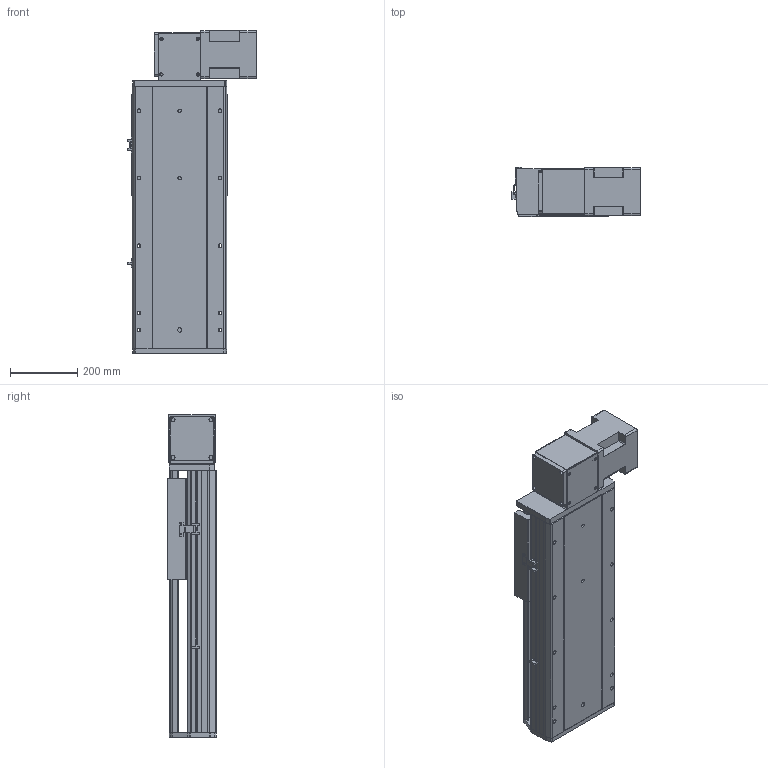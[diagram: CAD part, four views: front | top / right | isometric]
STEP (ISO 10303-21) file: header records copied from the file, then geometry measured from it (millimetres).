
FILE_DESCRIPTION (( 'STEP AP214' ), '1' );
FILE_NAME ('RTB28S-XX-350-BL-M100-XX-C4.STEP', '2025-12-22T02:16:07', ( '' ), ( '' ), 'SwSTEP 2.0', 'SolidWorks 2018', '' );
FILE_SCHEMA (( 'AUTOMOTIVE_DESIGN' ));
Length unit declared in the file: millimetre
Products named in the file (4): RTB28S-XX-350-BL-M100-XX-C4; RTB28S-GY-004^RTB28S-XX-XX-BL-M100-XX-C4; RTB28S-GY-011^RTB28S-XX-XX-BL-M100-XX-C4; RTB28S-GY-008^RTB28S-XX-XX-BL-M100-XX-C4
Assembly tree (3 placements, depth 2):
  RTB28S-XX-350-BL-M100-XX-C4
    RTB28S-GY-011^RTB28S-XX-XX-BL-M100-XX-C4
    RTB28S-GY-004^RTB28S-XX-XX-BL-M100-XX-C4
    RTB28S-GY-008^RTB28S-XX-XX-BL-M100-XX-C4
Bounding box: 380.7 x 145 x 957 mm (x, y, z)
Volume: 19370871.1 mm3; surface area: 1939289.9 mm2
Topology: 3 solids, 4 shells, 758 faces, 1998 edges, 1268 vertices
Faces by surface type: plane 339, cylinder 335, cone 80, torus 4
Entity records: 28055 total; most frequent: CARTESIAN_POINT 4552, DIRECTION 4224, ORIENTED_EDGE 3932, EDGE_CURVE 1966, AXIS2_PLACEMENT_3D 1512, VERTEX_POINT 1268, VECTOR 1200, LINE 1200
